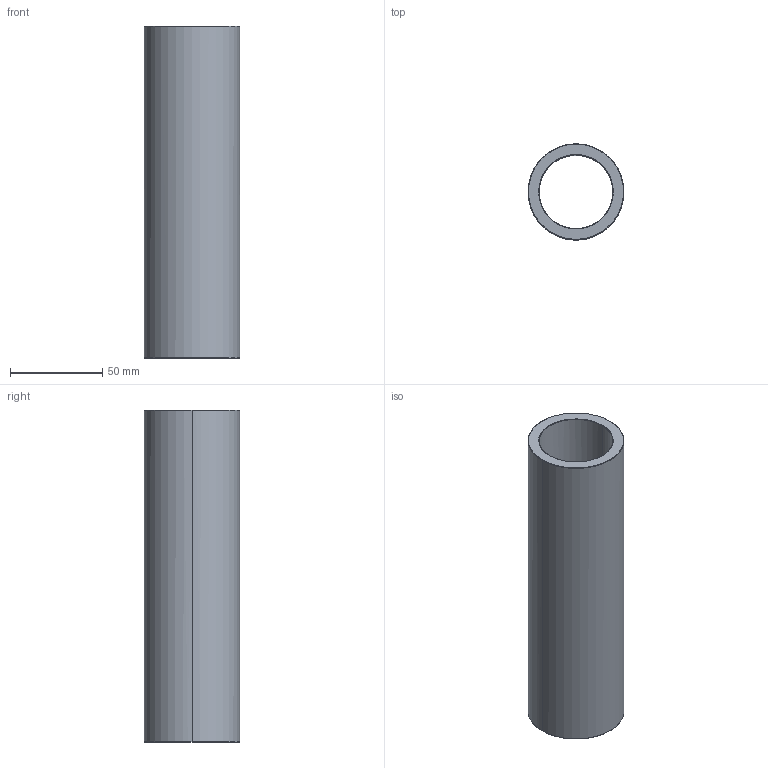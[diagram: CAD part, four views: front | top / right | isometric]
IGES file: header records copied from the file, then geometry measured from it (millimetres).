
Start section: Write IGES format                                    datakit 2008 (c)
Global section: file name: Unknown; native system: DATAKIT Converter; preprocessor: Unknown; author: Unknown; organization: Unknown; date: 950613.180003; units: millimetre
Bounding box: 52 x 52 x 180 mm (x, y, z)
Surface area: 53691.2 mm2 (no closed solid volume)
Topology: 0 solids, 0 shells, 14 faces, 56 edges, 56 vertices
Faces by surface type: revolution 12, bspline 2
